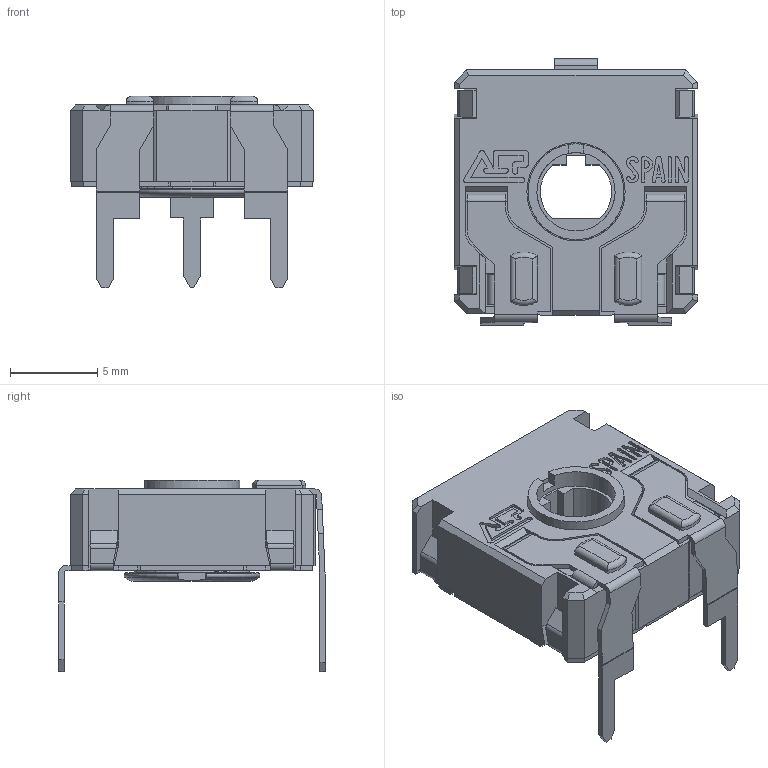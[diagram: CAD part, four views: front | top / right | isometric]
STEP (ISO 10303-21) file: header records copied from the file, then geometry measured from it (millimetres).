
FILE_DESCRIPTION(/* description */ (''),/* implementation_level */ '2;1');
FILE_NAME(/* name */ 'C:\Users\CEM\Desktop\ENVIAR\TRANSICION 3D CATALOGOS\CS14TV15.stp',/* time_stamp */ '2025-10-24T17:49:42+02:00',/* author */ ('CEM'),/* organization */ (''),/* preprocessor_version */ 'ST-DEVELOPER v17',/* originating_system */ 'Autodesk Inventor 2018',/* authorisation */ '');
FILE_SCHEMA (('AUTOMOTIVE_DESIGN { 1 0 10303 214 3 1 1 }'));
Length unit declared in the file: millimetre
Products named in the file (1): CS14TV15
Bounding box: 14 x 15.3 x 11 mm (x, y, z)
Volume: 549.9 mm3; surface area: 1615.6 mm2
Topology: 1 solids, 3 shells, 721 faces, 2018 edges, 1304 vertices
Faces by surface type: plane 546, cylinder 136, cone 17, torus 12, bspline 10
Full cylindrical faces by diameter (mm): 4.5 x1, 5.5 x1, 5.65 x1, 6.87 x1
Entity records: 24005 total; most frequent: CARTESIAN_POINT 4475, ORIENTED_EDGE 4036, DIRECTION 3748, EDGE_CURVE 2018, LINE 1594, VECTOR 1594, VERTEX_POINT 1304, AXIS2_PLACEMENT_3D 1077
